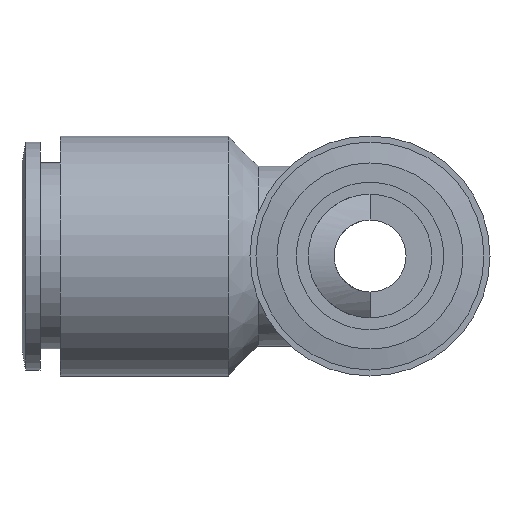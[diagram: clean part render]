
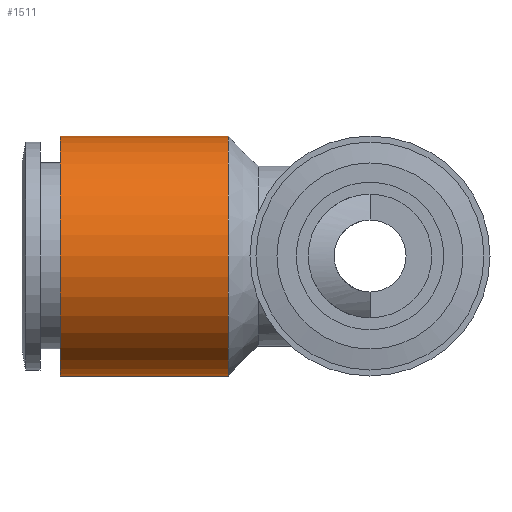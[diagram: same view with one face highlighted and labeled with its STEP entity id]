
A CAD part, left-side view. The second image highlights one B-rep face of the part: STEP entity #1511.
In plain terms, the highlighted cylindrical face has radius 10 mm (diameter 20 mm), a full revolution.
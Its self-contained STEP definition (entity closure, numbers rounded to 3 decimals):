
#1477=CARTESIAN_POINT('',(-10.0,11.8,0.0));
#1478=VERTEX_POINT('',#1477);
#1479=CARTESIAN_POINT('',(0.0,11.8,0.0));
#1480=DIRECTION('',(0.0,1.0,0.0));
#1481=DIRECTION('',(-1.0,0.0,0.0));
#1482=AXIS2_PLACEMENT_3D('',#1479,#1480,#1481);
#1483=CIRCLE('',#1482,10.0);
#1484=EDGE_CURVE('',#1478,#1478,#1483,.T.);
#1492=CARTESIAN_POINT('',(0.0,18.8,0.0));
#1493=DIRECTION('',(0.0,1.0,0.0));
#1494=DIRECTION('',(-1.0,0.0,0.0));
#1495=AXIS2_PLACEMENT_3D('',#1492,#1493,#1494);
#1496=CYLINDRICAL_SURFACE('',#1495,10.0);
#1497=CARTESIAN_POINT('',(-10.0,25.8,0.0));
#1498=VERTEX_POINT('',#1497);
#1499=CARTESIAN_POINT('',(0.0,25.8,0.0));
#1500=DIRECTION('',(0.0,1.0,0.0));
#1501=DIRECTION('',(-1.0,0.0,0.0));
#1502=AXIS2_PLACEMENT_3D('',#1499,#1500,#1501);
#1503=CIRCLE('',#1502,10.0);
#1504=EDGE_CURVE('',#1498,#1498,#1503,.T.);
#1505=ORIENTED_EDGE('',*,*,#1504,.F.);
#1506=EDGE_LOOP('',(#1505));
#1507=FACE_OUTER_BOUND('',#1506,.T.);
#1508=ORIENTED_EDGE('',*,*,#1484,.T.);
#1509=EDGE_LOOP('',(#1508));
#1510=FACE_BOUND('',#1509,.T.);
#1511=ADVANCED_FACE('',(#1507,#1510),#1496,.T.);
